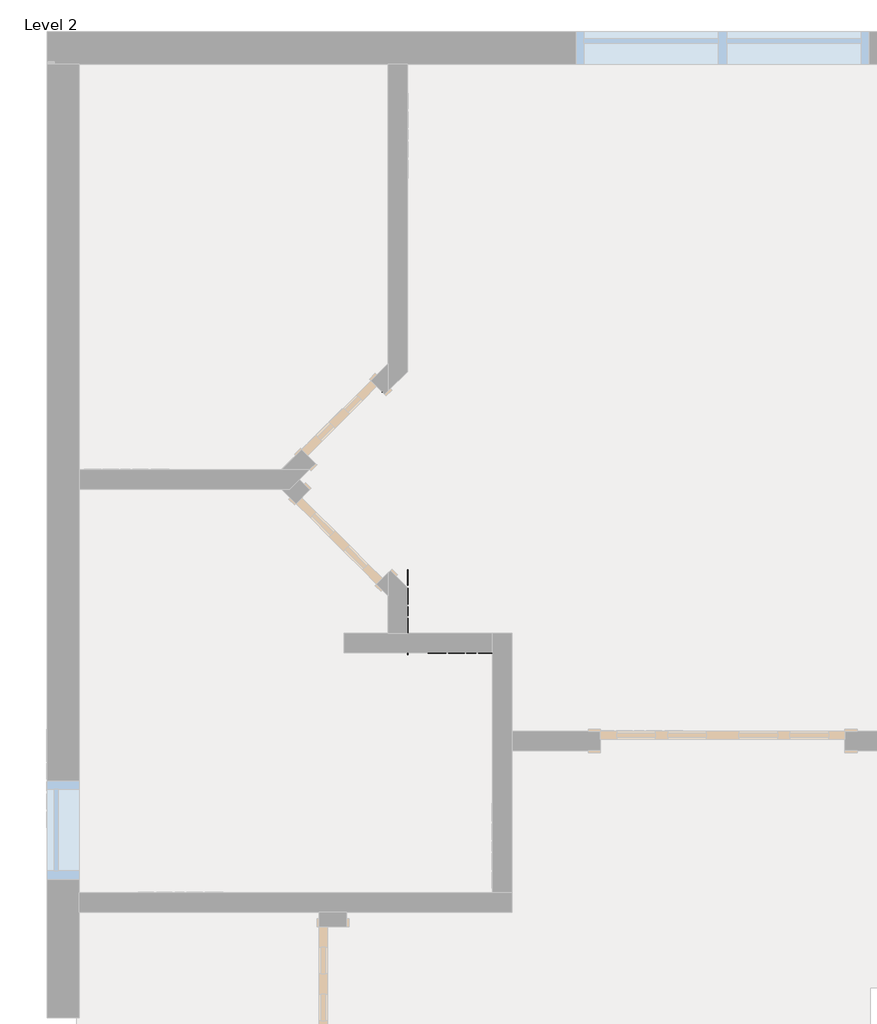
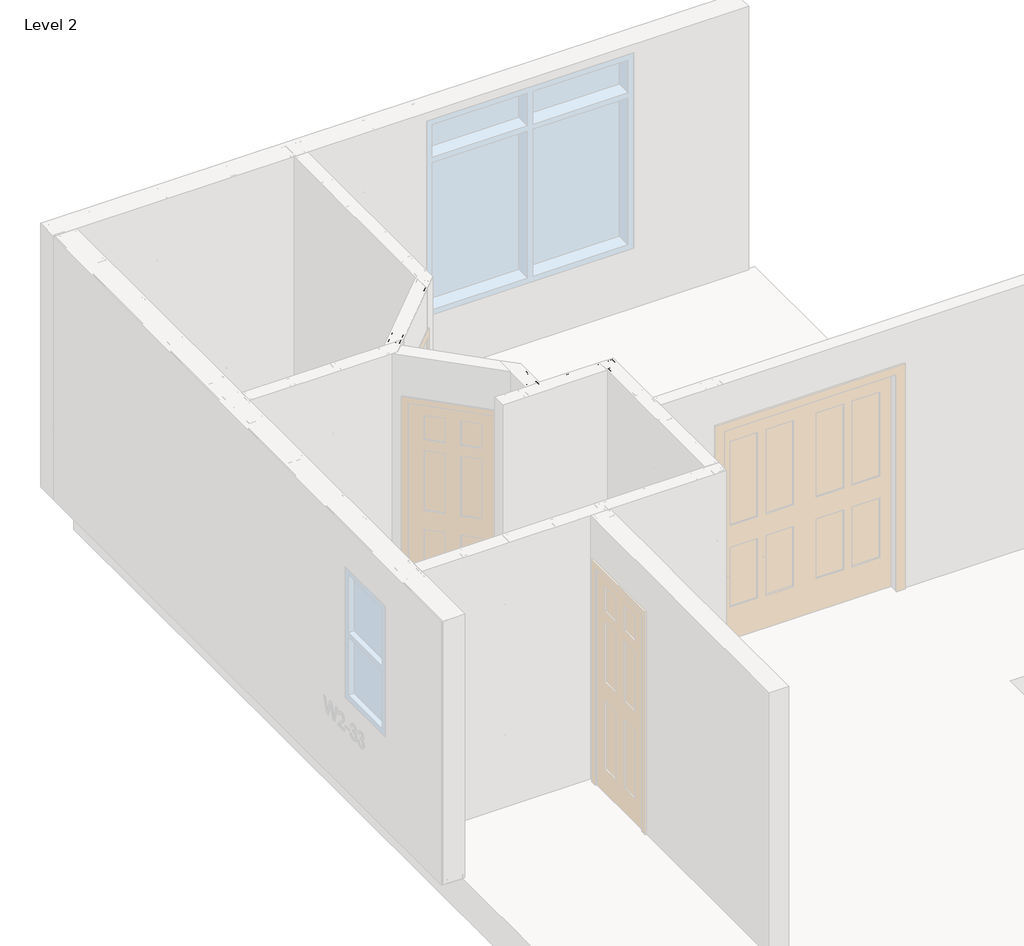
# One storey, part 29 of 46: 9 columns, 3 beams, 2 fasteners.
"""IFC4 building model written with IfcOpenShell, lengths in millimetres."""

from ifc_helpers import new_model, si_unit, point, frame, origin, place, context, project, spatial, circle_curve, ellipse_curve, trimmed, transform, mapped, element, save
from ifc_brep_helpers import plane_surface, extruded_surface, advanced_brep
from components import beam_350nf150_33_87fa722b, beam_350nf150_33_feebbda8, beam_350nf150_33_756c904e, column_350nf150_33_a93e9d8a, panellabel_6a70a0fa, panellabel_f1703738

model = new_model("IFC4")

# Units and contexts
model_context = context("Model", 3, world=origin())
ifc_project = project(units=[si_unit("LENGTHUNIT", "METRE", prefix="MILLI")], contexts=[model_context])

# Site, building, storey
site = spatial("IfcSite", under=ifc_project)
building = spatial("IfcBuilding", under=site)
storey = spatial("IfcBuildingStorey", under=building, Name="Level 2", Elevation=3060.7)

# Beams
placement = place(None, origin())
beam_350nf150_33_shape = beam_350nf150_33_87fa722b(model_context)
element("IfcBeam", 1, ObjectType="BIMSF-SSMA-S : 350NF150-33", at=placement, inside=storey, context=model_context, shape_type="MappedRepresentation", body=[
    mapped(beam_350nf150_33_shape, transform((-12921.6955722, 10242.677221, 3076.575), x_axis=(-1.0000000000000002, 0.0, 0.0), y_axis=(0.0, 0.0, -1.0000000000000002), z_axis=(0.0, -1.0000000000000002, 0.0))),
])
beam_350nf150_33_2_shape = beam_350nf150_33_feebbda8(model_context)
element("IfcBeam", 2, ObjectType="BIMSF-SSMA-S : 350NF150-33", at=placement, inside=storey, context=model_context, shape_type="MappedRepresentation", body=[
    mapped(beam_350nf150_33_2_shape, transform((-13720.4464533, 11363.1607353, 3076.575), x_axis=(0.7071067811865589, 0.7071067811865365, 0.0), y_axis=(0.0, 0.0, -1.0000000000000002), z_axis=(-0.7071067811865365, 0.7071067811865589, 0.0))),
])
beam_350nf150_33_3_shape = beam_350nf150_33_756c904e(model_context)
element("IfcBeam", 3, ObjectType="BIMSF-SSMA-S : 350NF150-33", at=placement, inside=storey, context=model_context, shape_type="MappedRepresentation", body=[
    mapped(beam_350nf150_33_3_shape, transform((-13201.7816696, 11881.825519, 3076.575), x_axis=(0.7071067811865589, 0.7071067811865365, 0.0), y_axis=(0.0, 0.0, -1.0000000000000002), z_axis=(-0.7071067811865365, 0.7071067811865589, 0.0))),
])

# Columns
element("IfcColumn", 4, ObjectType="BIMSF-SSMA-S-Column : 350NF150-33", at=placement, inside=storey, context=model_context, shape_type="AdvancedBrep", body=[
    advanced_brep(
    [(-12517.5663349, 10198.227221, 3061.5929687), (-12428.6663349, 10198.227221, 3061.5929687), (-12428.6663349, 10160.127221, 3061.5929687), (-12434.3238507, 10160.127221, 3061.5929687), (-12434.3238507, 10161.0095367, 3061.5929687), (-12429.5486507, 10161.0095367, 3061.5929687), (-12429.5486507, 10197.3449052, 3061.5929687), (-12516.6840191, 10197.3449052, 3061.5929687), (-12516.6840191, 10161.0095367, 3061.5929687), (-12511.9088191, 10161.0095367, 3061.5929687), (-12511.9088191, 10160.127221, 3061.5929687), (-12517.5663349, 10160.127221, 3061.5929687), (-12517.5663349, 10198.227221, 5523.6070313), (-12428.6663349, 10198.227221, 5523.6070313), (-12460.4163349, 10198.227221, 3671.1929688), (-12485.8163349, 10198.227221, 3671.1929688), (-12460.4163349, 10198.227221, 4890.3929687), (-12485.8163349, 10198.227221, 4890.3929687), (-12428.6663349, 10160.127221, 5523.6070313), (-12434.3238507, 10160.127221, 5523.6070313), (-12434.3238507, 10161.0095367, 5523.6070313), (-12429.5486507, 10161.0095367, 5523.6070313), (-12429.5486507, 10197.3449052, 5523.6070313), (-12516.6840191, 10197.3449052, 5523.6070313), (-12485.8163349, 10197.3449052, 3671.1929688), (-12460.4163349, 10197.3449052, 3671.1929688), (-12485.8163349, 10197.3449052, 4890.3929687), (-12460.4163349, 10197.3449052, 4890.3929687), (-12516.6840191, 10161.0095367, 5523.6070313), (-12511.9088191, 10161.0095367, 5523.6070313), (-12511.9088191, 10160.127221, 5523.6070313), (-12517.5663349, 10160.127221, 5523.6070313)],
    [
        (0, 1),
        (1, 2),
        (2, 3),
        (3, 4),
        (4, 5),
        (5, 6),
        (6, 7),
        (7, 8),
        (8, 9),
        (9, 10),
        (10, 11),
        (11, 0),
        (0, 12),
        (12, 13),
        (13, 1),
        (14, 15, circle_curve(frame((-12473.1163349, 10198.227221, 3671.1929688), z_axis=(0.0, -1.0, 0.0), x_axis=(1.0, 0.0, 0.0)), 12.7)),
        (15, 14, circle_curve(frame((-12473.1163349, 10198.227221, 3671.1929688), z_axis=(0.0, -1.0, 0.0), x_axis=(1.0, 0.0, 0.0)), 12.7)),
        (16, 17, circle_curve(frame((-12473.1163349, 10198.227221, 4890.3929687), z_axis=(0.0, -1.0, 0.0), x_axis=(1.0, 0.0, 0.0)), 12.7)),
        (17, 16, circle_curve(frame((-12473.1163349, 10198.227221, 4890.3929687), z_axis=(0.0, -1.0, 0.0), x_axis=(1.0, 0.0, 0.0)), 12.7)),
        (13, 18),
        (18, 2),
        (18, 19),
        (19, 3),
        (19, 20),
        (20, 4),
        (20, 21),
        (21, 5),
        (21, 22),
        (22, 6),
        (22, 23),
        (23, 7),
        (24, 25, circle_curve(frame((-12473.1163349, 10197.3449052, 3671.1929688), z_axis=(0.0, 1.0, 0.0), x_axis=(1.0, 0.0, 0.0)), 12.7)),
        (25, 24, circle_curve(frame((-12473.1163349, 10197.3449052, 3671.1929688), z_axis=(0.0, 1.0, 0.0), x_axis=(1.0, 0.0, 0.0)), 12.7)),
        (26, 27, circle_curve(frame((-12473.1163349, 10197.3449052, 4890.3929687), z_axis=(0.0, 1.0, 0.0), x_axis=(1.0, 0.0, 0.0)), 12.7)),
        (27, 26, circle_curve(frame((-12473.1163349, 10197.3449052, 4890.3929687), z_axis=(0.0, 1.0, 0.0), x_axis=(1.0, 0.0, 0.0)), 12.7)),
        (23, 28),
        (28, 8),
        (28, 29),
        (29, 9),
        (29, 30),
        (30, 10),
        (30, 31),
        (31, 11),
        (31, 12),
        (24, 15),
        (14, 25),
        (26, 17),
        (16, 27),
    ],
    [
        plane_surface(frame((-12517.5663349, 10198.227221, 3061.5929687), z_axis=(0.0, 0.0, -1.0), x_axis=(0.0, 1.0, 0.0))),
        plane_surface(frame((-12428.6663349, 10198.227221, 5523.6070313), z_axis=(0.0, 1.0, 0.0), x_axis=(0.0, 0.0, -1.0))),
        plane_surface(frame((-12428.6663349, 10160.127221, 5523.6070313), z_axis=(1.0, 0.0, 0.0), x_axis=(0.0, 0.0, -1.0))),
        plane_surface(frame((-12434.3238507, 10160.127221, 5523.6070313), z_axis=(0.0, -1.0, 0.0), x_axis=(0.0, 0.0, -1.0))),
        plane_surface(frame((-12434.3238507, 10161.0095367, 5523.6070313), z_axis=(-1.0, 0.0, 0.0), x_axis=(0.0, 0.0, -1.0))),
        plane_surface(frame((-12429.5486507, 10161.0095367, 5523.6070313), z_axis=(0.0, 1.0, 0.0), x_axis=(0.0, 0.0, -1.0))),
        plane_surface(frame((-12429.5486507, 10197.3449052, 5523.6070313), z_axis=(-1.0, 0.0, 0.0), x_axis=(0.0, 0.0, -1.0))),
        plane_surface(frame((-12516.6840191, 10197.3449052, 5523.6070313), z_axis=(0.0, -1.0, 0.0), x_axis=(0.0, 0.0, -1.0))),
        plane_surface(frame((-12516.6840191, 10161.0095367, 5523.6070313), z_axis=(1.0, 0.0, 0.0), x_axis=(0.0, 0.0, -1.0))),
        plane_surface(frame((-12511.9088191, 10161.0095367, 5523.6070313), z_axis=(0.0, 1.0, 0.0), x_axis=(0.0, 0.0, -1.0))),
        plane_surface(frame((-12511.9088191, 10160.127221, 5523.6070313), z_axis=(1.0, 0.0, 0.0), x_axis=(0.0, 0.0, -1.0))),
        plane_surface(frame((-12517.5663349, 10160.127221, 5523.6070313), z_axis=(0.0, -1.0, 0.0), x_axis=(0.0, 0.0, -1.0))),
        plane_surface(frame((-12517.5663349, 10198.227221, 5523.6070313), z_axis=(-1.0, 0.0, 0.0), x_axis=(0.0, 0.0, -1.0))),
        plane_surface(frame((-12517.5663349, 10198.227221, 5523.6070313), z_axis=(0.0, 0.0, 1.0), x_axis=(0.0, -1.0, 0.0))),
        extruded_surface(trimmed(ellipse_curve(frame((-12473.1163349, 7717.1631585, 3671.1929688), z_axis=(0.0, 1.0, 0.0), x_axis=(1.0, 0.0, 0.0)), 12.7, 12.7), [point((-12485.8163349, 7717.1631585, 3671.1929688))], [point((-12460.4163349, 7717.1631585, 3671.1929688))], True, "CARTESIAN"), (0.0, -4924.028124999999, 0.0), 4924.028124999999),
        extruded_surface(trimmed(ellipse_curve(frame((-12473.1163349, 7717.1631585, 3671.1929688), z_axis=(0.0, 1.0, 0.0), x_axis=(1.0, 0.0, 0.0)), 12.7, 12.7), [point((-12460.4163349, 7717.1631585, 3671.1929688))], [point((-12485.8163349, 7717.1631585, 3671.1929688))], True, "CARTESIAN"), (0.0, -4924.028124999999, 0.0), 4924.028124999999),
        extruded_surface(trimmed(ellipse_curve(frame((-12473.1163349, 7717.1631585, 4890.3929687), z_axis=(0.0, 1.0, 0.0), x_axis=(1.0, 0.0, 0.0)), 12.7, 12.7), [point((-12485.8163349, 7717.1631585, 4890.3929687))], [point((-12460.4163349, 7717.1631585, 4890.3929687))], True, "CARTESIAN"), (0.0, -4924.028124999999, 0.0), 4924.028124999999),
        extruded_surface(trimmed(ellipse_curve(frame((-12473.1163349, 7717.1631585, 4890.3929687), z_axis=(0.0, 1.0, 0.0), x_axis=(1.0, 0.0, 0.0)), 12.7, 12.7), [point((-12460.4163349, 7717.1631585, 4890.3929687))], [point((-12485.8163349, 7717.1631585, 4890.3929687))], True, "CARTESIAN"), (0.0, -4924.028124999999, 0.0), 4924.028124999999),
    ],
    [
        (0, [[1, 2, 3, 4, 5, 6, 7, 8, 9, 10, 11, 12]]),
        (1, [[-1, 13, 14, 15], [16, 17], [18, 19]]),
        (2, [[-2, -15, 20, 21]]),
        (3, [[-3, -21, 22, 23]]),
        (4, [[-4, -23, 24, 25]]),
        (5, [[-5, -25, 26, 27]]),
        (6, [[-6, -27, 28, 29]]),
        (7, [[-7, -29, 30, 31], [32, 33], [34, 35]]),
        (8, [[-8, -31, 36, 37]]),
        (9, [[-9, -37, 38, 39]]),
        (10, [[-10, -39, 40, 41]]),
        (11, [[-11, -41, 42, 43]]),
        (12, [[-12, -43, 44, -13]]),
        (13, [[-14, -44, -42, -40, -38, -36, -30, -28, -26, -24, -22, -20]]),
        (14, [[45, -16, 46, -32]]),
        (15, [[-45, -33, -46, -17]]),
        (16, [[47, -18, 48, -34]]),
        (17, [[-47, -35, -48, -19]]),
    ],
),
])
element("IfcColumn", 5, ObjectType="BIMSF-SSMA-S-Column : 350NF150-33", at=placement, inside=storey, context=model_context, shape_type="AdvancedBrep", body=[
    advanced_brep(
    [(-12428.6663349, 10287.127221, 3061.5929687), (-12428.6663349, 10198.227221, 3061.5929687), (-12466.7663349, 10198.227221, 3061.5929687), (-12466.7663349, 10203.8847367, 3061.5929687), (-12465.8840191, 10203.8847367, 3061.5929687), (-12465.8840191, 10199.1095367, 3061.5929687), (-12429.5486507, 10199.1095367, 3061.5929687), (-12429.5486507, 10286.2449052, 3061.5929687), (-12465.8840191, 10286.2449052, 3061.5929687), (-12465.8840191, 10281.4697052, 3061.5929687), (-12466.7663349, 10281.4697052, 3061.5929687), (-12466.7663349, 10287.127221, 3061.5929687), (-12428.6663349, 10287.127221, 5523.6070313), (-12428.6663349, 10198.227221, 5523.6070313), (-12428.6663349, 10229.977221, 3671.1929687), (-12428.6663349, 10255.377221, 3671.1929687), (-12428.6663349, 10229.977221, 4890.3929687), (-12428.6663349, 10255.377221, 4890.3929688), (-12466.7663349, 10198.227221, 5523.6070313), (-12466.7663349, 10203.8847367, 5523.6070313), (-12465.8840191, 10203.8847367, 5523.6070313), (-12465.8840191, 10199.1095367, 5523.6070313), (-12429.5486507, 10199.1095367, 5523.6070313), (-12429.5486507, 10286.2449052, 5523.6070313), (-12429.5486507, 10255.377221, 3671.1929687), (-12429.5486507, 10229.977221, 3671.1929687), (-12429.5486507, 10255.377221, 4890.3929688), (-12429.5486507, 10229.977221, 4890.3929687), (-12465.8840191, 10286.2449052, 5523.6070313), (-12465.8840191, 10281.4697052, 5523.6070313), (-12466.7663349, 10281.4697052, 5523.6070313), (-12466.7663349, 10287.127221, 5523.6070313)],
    [
        (0, 1),
        (1, 2),
        (2, 3),
        (3, 4),
        (4, 5),
        (5, 6),
        (6, 7),
        (7, 8),
        (8, 9),
        (9, 10),
        (10, 11),
        (11, 0),
        (0, 12),
        (12, 13),
        (13, 1),
        (14, 15, circle_curve(frame((-12428.6663349, 10242.677221, 3671.1929687), z_axis=(-1.0, 0.0, 0.0), x_axis=(0.0, -1.0, 0.0)), 12.7)),
        (15, 14, circle_curve(frame((-12428.6663349, 10242.677221, 3671.1929687), z_axis=(-1.0, 0.0, 0.0), x_axis=(0.0, -1.0, 0.0)), 12.7)),
        (16, 17, circle_curve(frame((-12428.6663349, 10242.677221, 4890.3929687), z_axis=(-1.0, 0.0, 0.0), x_axis=(0.0, -1.0, 0.0)), 12.7)),
        (17, 16, circle_curve(frame((-12428.6663349, 10242.677221, 4890.3929687), z_axis=(-1.0, 0.0, 0.0), x_axis=(0.0, -1.0, 0.0)), 12.7)),
        (13, 18),
        (18, 2),
        (18, 19),
        (19, 3),
        (19, 20),
        (20, 4),
        (20, 21),
        (21, 5),
        (21, 22),
        (22, 6),
        (22, 23),
        (23, 7),
        (24, 25, circle_curve(frame((-12429.5486507, 10242.677221, 3671.1929688), z_axis=(1.0, 0.0, 0.0), x_axis=(0.0, -1.0, 0.0)), 12.7)),
        (25, 24, circle_curve(frame((-12429.5486507, 10242.677221, 3671.1929688), z_axis=(1.0, 0.0, 0.0), x_axis=(0.0, -1.0, 0.0)), 12.7)),
        (26, 27, circle_curve(frame((-12429.5486507, 10242.677221, 4890.3929687), z_axis=(1.0, 0.0, 0.0), x_axis=(0.0, -1.0, 0.0)), 12.7)),
        (27, 26, circle_curve(frame((-12429.5486507, 10242.677221, 4890.3929687), z_axis=(1.0, 0.0, 0.0), x_axis=(0.0, -1.0, 0.0)), 12.7)),
        (23, 28),
        (28, 8),
        (28, 29),
        (29, 9),
        (29, 30),
        (30, 10),
        (30, 31),
        (31, 11),
        (31, 12),
        (24, 15),
        (14, 25),
        (26, 17),
        (16, 27),
    ],
    [
        plane_surface(frame((-12428.6663349, 10287.127221, 3061.5929687), z_axis=(0.0, 0.0, -1.0), x_axis=(1.0, 0.0, 0.0))),
        plane_surface(frame((-12428.6663349, 10198.227221, 5523.6070313), z_axis=(1.0, 0.0, 0.0), x_axis=(0.0, 0.0, -1.0))),
        plane_surface(frame((-12466.7663349, 10198.227221, 5523.6070313), z_axis=(0.0, -1.0, 0.0), x_axis=(0.0, 0.0, -1.0))),
        plane_surface(frame((-12466.7663349, 10203.8847367, 5523.6070313), z_axis=(-1.0, 0.0, 0.0), x_axis=(0.0, 0.0, -1.0))),
        plane_surface(frame((-12465.8840191, 10203.8847367, 5523.6070313), z_axis=(0.0, 1.0, 0.0), x_axis=(0.0, 0.0, -1.0))),
        plane_surface(frame((-12465.8840191, 10199.1095367, 5523.6070313), z_axis=(1.0, 0.0, 0.0), x_axis=(0.0, 0.0, -1.0))),
        plane_surface(frame((-12429.5486507, 10199.1095367, 5523.6070313), z_axis=(0.0, 1.0, 0.0), x_axis=(0.0, 0.0, -1.0))),
        plane_surface(frame((-12429.5486507, 10286.2449052, 5523.6070313), z_axis=(-1.0, 0.0, 0.0), x_axis=(0.0, 0.0, -1.0))),
        plane_surface(frame((-12465.8840191, 10286.2449052, 5523.6070313), z_axis=(0.0, -1.0, 0.0), x_axis=(0.0, 0.0, -1.0))),
        plane_surface(frame((-12465.8840191, 10281.4697052, 5523.6070313), z_axis=(1.0, 0.0, 0.0), x_axis=(0.0, 0.0, -1.0))),
        plane_surface(frame((-12466.7663349, 10281.4697052, 5523.6070313), z_axis=(0.0, -1.0, 0.0), x_axis=(0.0, 0.0, -1.0))),
        plane_surface(frame((-12466.7663349, 10287.127221, 5523.6070313), z_axis=(-1.0, 0.0, 0.0), x_axis=(0.0, 0.0, -1.0))),
        plane_surface(frame((-12428.6663349, 10287.127221, 5523.6070313), z_axis=(0.0, 1.0, 0.0), x_axis=(0.0, 0.0, -1.0))),
        plane_surface(frame((-12428.6663349, 10287.127221, 5523.6070313), z_axis=(0.0, 0.0, 1.0), x_axis=(-1.0, 0.0, 0.0))),
        extruded_surface(trimmed(ellipse_curve(frame((-14909.7303974, 10242.677221, 3671.1929688), z_axis=(1.0, 0.0, 0.0), x_axis=(0.0, -1.0, 0.0)), 12.7, 12.7), [point((-14909.7303974, 10255.377221, 3671.1929688))], [point((-14909.7303974, 10229.977221, 3671.1929688))], True, "CARTESIAN"), (-4924.028124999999, 0.0, 0.0), 4924.028124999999),
        extruded_surface(trimmed(ellipse_curve(frame((-14909.7303974, 10242.677221, 3671.1929688), z_axis=(1.0, 0.0, 0.0), x_axis=(0.0, -1.0, 0.0)), 12.7, 12.7), [point((-14909.7303974, 10229.977221, 3671.1929688))], [point((-14909.7303974, 10255.377221, 3671.1929688))], True, "CARTESIAN"), (-4924.028124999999, 0.0, 0.0), 4924.028124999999),
        extruded_surface(trimmed(ellipse_curve(frame((-14909.7303974, 10242.677221, 4890.3929687), z_axis=(1.0, 0.0, 0.0), x_axis=(0.0, -1.0, 0.0)), 12.7, 12.7), [point((-14909.7303974, 10255.377221, 4890.3929687))], [point((-14909.7303974, 10229.977221, 4890.3929687))], True, "CARTESIAN"), (-4924.028124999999, 0.0, 0.0), 4924.028124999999),
        extruded_surface(trimmed(ellipse_curve(frame((-14909.7303974, 10242.677221, 4890.3929687), z_axis=(1.0, 0.0, 0.0), x_axis=(0.0, -1.0, 0.0)), 12.7, 12.7), [point((-14909.7303974, 10229.977221, 4890.3929687))], [point((-14909.7303974, 10255.377221, 4890.3929687))], True, "CARTESIAN"), (-4924.028124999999, 0.0, 0.0), 4924.028124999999),
    ],
    [
        (0, [[1, 2, 3, 4, 5, 6, 7, 8, 9, 10, 11, 12]]),
        (1, [[-1, 13, 14, 15], [16, 17], [18, 19]]),
        (2, [[-2, -15, 20, 21]]),
        (3, [[-3, -21, 22, 23]]),
        (4, [[-4, -23, 24, 25]]),
        (5, [[-5, -25, 26, 27]]),
        (6, [[-6, -27, 28, 29]]),
        (7, [[-7, -29, 30, 31], [32, 33], [34, 35]]),
        (8, [[-8, -31, 36, 37]]),
        (9, [[-9, -37, 38, 39]]),
        (10, [[-10, -39, 40, 41]]),
        (11, [[-11, -41, 42, 43]]),
        (12, [[-12, -43, 44, -13]]),
        (13, [[-14, -44, -42, -40, -38, -36, -30, -28, -26, -24, -22, -20]]),
        (14, [[45, -16, 46, -32]]),
        (15, [[-45, -33, -46, -17]]),
        (16, [[47, -18, 48, -34]]),
        (17, [[-47, -35, -48, -19]]),
    ],
),
])
element("IfcColumn", 6, ObjectType="BIMSF-SSMA-S-Column : 350NF150-33", at=placement, inside=storey, context=model_context, shape_type="AdvancedBrep", body=[
    advanced_brep(
    [(-12816.0163349, 10287.127221, 3061.5929687), (-12816.0163349, 10198.227221, 3061.5929687), (-12854.1163349, 10198.227221, 3061.5929687), (-12854.1163349, 10203.8847367, 3061.5929687), (-12853.2340191, 10203.8847367, 3061.5929687), (-12853.2340191, 10199.1095367, 3061.5929687), (-12816.8986507, 10199.1095367, 3061.5929687), (-12816.8986507, 10286.2449052, 3061.5929687), (-12853.2340191, 10286.2449052, 3061.5929687), (-12853.2340191, 10281.4697052, 3061.5929687), (-12854.1163349, 10281.4697052, 3061.5929687), (-12854.1163349, 10287.127221, 3061.5929687), (-12816.0163349, 10287.127221, 5523.6070313), (-12816.0163349, 10198.227221, 5523.6070313), (-12816.0163349, 10229.977221, 3671.1929688), (-12816.0163349, 10255.377221, 3671.1929688), (-12816.0163349, 10229.977221, 4890.3929687), (-12816.0163349, 10255.377221, 4890.3929687), (-12854.1163349, 10198.227221, 5523.6070313), (-12854.1163349, 10203.8847367, 5523.6070313), (-12853.2340191, 10203.8847367, 5523.6070313), (-12853.2340191, 10199.1095367, 5523.6070313), (-12816.8986507, 10199.1095367, 5523.6070313), (-12816.8986507, 10286.2449052, 5523.6070313), (-12816.8986507, 10255.377221, 3671.1929688), (-12816.8986507, 10229.977221, 3671.1929688), (-12816.8986507, 10255.377221, 4890.3929688), (-12816.8986507, 10229.977221, 4890.3929688), (-12853.2340191, 10286.2449052, 5523.6070313), (-12853.2340191, 10281.4697052, 5523.6070313), (-12854.1163349, 10281.4697052, 5523.6070313), (-12854.1163349, 10287.127221, 5523.6070313)],
    [
        (0, 1),
        (1, 2),
        (2, 3),
        (3, 4),
        (4, 5),
        (5, 6),
        (6, 7),
        (7, 8),
        (8, 9),
        (9, 10),
        (10, 11),
        (11, 0),
        (0, 12),
        (12, 13),
        (13, 1),
        (14, 15, circle_curve(frame((-12816.0163349, 10242.677221, 3671.1929687), z_axis=(-1.0, 0.0, 0.0), x_axis=(0.0, -1.0, 0.0)), 12.7)),
        (15, 14, circle_curve(frame((-12816.0163349, 10242.677221, 3671.1929687), z_axis=(-1.0, 0.0, 0.0), x_axis=(0.0, -1.0, 0.0)), 12.7)),
        (16, 17, circle_curve(frame((-12816.0163349, 10242.677221, 4890.3929687), z_axis=(-1.0, 0.0, 0.0), x_axis=(0.0, -1.0, 0.0)), 12.7)),
        (17, 16, circle_curve(frame((-12816.0163349, 10242.677221, 4890.3929687), z_axis=(-1.0, 0.0, 0.0), x_axis=(0.0, -1.0, 0.0)), 12.7)),
        (13, 18),
        (18, 2),
        (18, 19),
        (19, 3),
        (19, 20),
        (20, 4),
        (20, 21),
        (21, 5),
        (21, 22),
        (22, 6),
        (22, 23),
        (23, 7),
        (24, 25, circle_curve(frame((-12816.8986507, 10242.677221, 3671.1929688), z_axis=(1.0, 0.0, 0.0), x_axis=(0.0, -1.0, 0.0)), 12.7)),
        (25, 24, circle_curve(frame((-12816.8986507, 10242.677221, 3671.1929688), z_axis=(1.0, 0.0, 0.0), x_axis=(0.0, -1.0, 0.0)), 12.7)),
        (26, 27, circle_curve(frame((-12816.8986507, 10242.677221, 4890.3929687), z_axis=(1.0, 0.0, 0.0), x_axis=(0.0, -1.0, 0.0)), 12.7)),
        (27, 26, circle_curve(frame((-12816.8986507, 10242.677221, 4890.3929687), z_axis=(1.0, 0.0, 0.0), x_axis=(0.0, -1.0, 0.0)), 12.7)),
        (23, 28),
        (28, 8),
        (28, 29),
        (29, 9),
        (29, 30),
        (30, 10),
        (30, 31),
        (31, 11),
        (31, 12),
        (24, 15),
        (14, 25),
        (26, 17),
        (16, 27),
    ],
    [
        plane_surface(frame((-12816.0163349, 10287.127221, 3061.5929687), z_axis=(0.0, 0.0, -1.0), x_axis=(1.0, 0.0, 0.0))),
        plane_surface(frame((-12816.0163349, 10198.227221, 5523.6070313), z_axis=(1.0, 0.0, 0.0), x_axis=(0.0, 0.0, -1.0))),
        plane_surface(frame((-12854.1163349, 10198.227221, 5523.6070313), z_axis=(0.0, -1.0, 0.0), x_axis=(0.0, 0.0, -1.0))),
        plane_surface(frame((-12854.1163349, 10203.8847367, 5523.6070313), z_axis=(-1.0, 0.0, 0.0), x_axis=(0.0, 0.0, -1.0))),
        plane_surface(frame((-12853.2340191, 10203.8847367, 5523.6070313), z_axis=(0.0, 1.0, 0.0), x_axis=(0.0, 0.0, -1.0))),
        plane_surface(frame((-12853.2340191, 10199.1095367, 5523.6070313), z_axis=(1.0, 0.0, 0.0), x_axis=(0.0, 0.0, -1.0))),
        plane_surface(frame((-12816.8986507, 10199.1095367, 5523.6070313), z_axis=(0.0, 1.0, 0.0), x_axis=(0.0, 0.0, -1.0))),
        plane_surface(frame((-12816.8986507, 10286.2449052, 5523.6070313), z_axis=(-1.0, 0.0, 0.0), x_axis=(0.0, 0.0, -1.0))),
        plane_surface(frame((-12853.2340191, 10286.2449052, 5523.6070313), z_axis=(0.0, -1.0, 0.0), x_axis=(0.0, 0.0, -1.0))),
        plane_surface(frame((-12853.2340191, 10281.4697052, 5523.6070313), z_axis=(1.0, 0.0, 0.0), x_axis=(0.0, 0.0, -1.0))),
        plane_surface(frame((-12854.1163349, 10281.4697052, 5523.6070313), z_axis=(0.0, -1.0, 0.0), x_axis=(0.0, 0.0, -1.0))),
        plane_surface(frame((-12854.1163349, 10287.127221, 5523.6070313), z_axis=(-1.0, 0.0, 0.0), x_axis=(0.0, 0.0, -1.0))),
        plane_surface(frame((-12816.0163349, 10287.127221, 5523.6070313), z_axis=(0.0, 1.0, 0.0), x_axis=(0.0, 0.0, -1.0))),
        plane_surface(frame((-12816.0163349, 10287.127221, 5523.6070313), z_axis=(0.0, 0.0, 1.0), x_axis=(-1.0, 0.0, 0.0))),
        extruded_surface(trimmed(ellipse_curve(frame((-15297.0803974, 10242.677221, 3671.1929688), z_axis=(1.0, 0.0, 0.0), x_axis=(0.0, -1.0, 0.0)), 12.7, 12.7), [point((-15297.0803974, 10255.377221, 3671.1929688))], [point((-15297.0803974, 10229.977221, 3671.1929688))], True, "CARTESIAN"), (-4924.028125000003, 0.0, 0.0), 4924.028125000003),
        extruded_surface(trimmed(ellipse_curve(frame((-15297.0803974, 10242.677221, 3671.1929688), z_axis=(1.0, 0.0, 0.0), x_axis=(0.0, -1.0, 0.0)), 12.7, 12.7), [point((-15297.0803974, 10229.977221, 3671.1929688))], [point((-15297.0803974, 10255.377221, 3671.1929688))], True, "CARTESIAN"), (-4924.028125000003, 0.0, 0.0), 4924.028125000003),
        extruded_surface(trimmed(ellipse_curve(frame((-15297.0803974, 10242.677221, 4890.3929687), z_axis=(1.0, 0.0, 0.0), x_axis=(0.0, -1.0, 0.0)), 12.7, 12.7), [point((-15297.0803974, 10255.377221, 4890.3929687))], [point((-15297.0803974, 10229.977221, 4890.3929687))], True, "CARTESIAN"), (-4924.028125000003, 0.0, 0.0), 4924.028125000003),
        extruded_surface(trimmed(ellipse_curve(frame((-15297.0803974, 10242.677221, 4890.3929687), z_axis=(1.0, 0.0, 0.0), x_axis=(0.0, -1.0, 0.0)), 12.7, 12.7), [point((-15297.0803974, 10229.977221, 4890.3929687))], [point((-15297.0803974, 10255.377221, 4890.3929687))], True, "CARTESIAN"), (-4924.028125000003, 0.0, 0.0), 4924.028125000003),
    ],
    [
        (0, [[1, 2, 3, 4, 5, 6, 7, 8, 9, 10, 11, 12]]),
        (1, [[-1, 13, 14, 15], [16, 17], [18, 19]]),
        (2, [[-2, -15, 20, 21]]),
        (3, [[-3, -21, 22, 23]]),
        (4, [[-4, -23, 24, 25]]),
        (5, [[-5, -25, 26, 27]]),
        (6, [[-6, -27, 28, 29]]),
        (7, [[-7, -29, 30, 31], [32, 33], [34, 35]]),
        (8, [[-8, -31, 36, 37]]),
        (9, [[-9, -37, 38, 39]]),
        (10, [[-10, -39, 40, 41]]),
        (11, [[-11, -41, 42, 43]]),
        (12, [[-12, -43, 44, -13]]),
        (13, [[-14, -44, -42, -40, -38, -36, -30, -28, -26, -24, -22, -20]]),
        (14, [[45, -16, 46, -32]]),
        (15, [[-45, -33, -46, -17]]),
        (16, [[47, -18, 48, -34]]),
        (17, [[-47, -35, -48, -19]]),
    ],
),
])
element("IfcColumn", 7, ObjectType="BIMSF-SSMA-S-Column : 350NF150-33", at=placement, inside=storey, context=model_context, shape_type="AdvancedBrep", body=[
    advanced_brep(
    [(-13168.4413349, 10479.1573381, 3061.5929687), (-13079.5413349, 10479.1573381, 3061.5929687), (-13079.5413349, 10441.0573381, 3061.5929687), (-13085.1988507, 10441.0573381, 3061.5929687), (-13085.1988507, 10441.9396539, 3061.5929687), (-13080.4236507, 10441.9396539, 3061.5929687), (-13080.4236507, 10478.2750224, 3061.5929687), (-13167.5590191, 10478.2750224, 3061.5929687), (-13167.5590191, 10441.9396539, 3061.5929687), (-13162.7838191, 10441.9396539, 3061.5929687), (-13162.7838191, 10441.0573381, 3061.5929687), (-13168.4413349, 10441.0573381, 3061.5929687), (-13168.4413349, 10479.1573381, 5523.6070313), (-13079.5413349, 10479.1573381, 5523.6070313), (-13111.2913349, 10479.1573381, 3671.1929688), (-13136.6913349, 10479.1573381, 3671.1929688), (-13111.2913349, 10479.1573381, 4890.3929687), (-13136.6913349, 10479.1573381, 4890.3929687), (-13079.5413349, 10441.0573381, 5523.6070313), (-13085.1988507, 10441.0573381, 5523.6070313), (-13085.1988507, 10441.9396539, 5523.6070313), (-13080.4236507, 10441.9396539, 5523.6070313), (-13080.4236507, 10478.2750224, 5523.6070313), (-13167.5590191, 10478.2750224, 5523.6070313), (-13136.6913349, 10478.2750224, 3671.1929688), (-13111.2913349, 10478.2750224, 3671.1929688), (-13136.6913349, 10478.2750224, 4890.3929687), (-13111.2913349, 10478.2750224, 4890.3929687), (-13167.5590191, 10441.9396539, 5523.6070313), (-13162.7838191, 10441.9396539, 5523.6070313), (-13162.7838191, 10441.0573381, 5523.6070313), (-13168.4413349, 10441.0573381, 5523.6070313)],
    [
        (0, 1),
        (1, 2),
        (2, 3),
        (3, 4),
        (4, 5),
        (5, 6),
        (6, 7),
        (7, 8),
        (8, 9),
        (9, 10),
        (10, 11),
        (11, 0),
        (0, 12),
        (12, 13),
        (13, 1),
        (14, 15, circle_curve(frame((-13123.9913349, 10479.1573381, 3671.1929688), z_axis=(0.0, -1.0, 0.0), x_axis=(1.0, 0.0, 0.0)), 12.7)),
        (15, 14, circle_curve(frame((-13123.9913349, 10479.1573381, 3671.1929688), z_axis=(0.0, -1.0, 0.0), x_axis=(1.0, 0.0, 0.0)), 12.7)),
        (16, 17, circle_curve(frame((-13123.9913349, 10479.1573381, 4890.3929687), z_axis=(0.0, -1.0, 0.0), x_axis=(1.0, 0.0, 0.0)), 12.7)),
        (17, 16, circle_curve(frame((-13123.9913349, 10479.1573381, 4890.3929687), z_axis=(0.0, -1.0, 0.0), x_axis=(1.0, 0.0, 0.0)), 12.7)),
        (13, 18),
        (18, 2),
        (18, 19),
        (19, 3),
        (19, 20),
        (20, 4),
        (20, 21),
        (21, 5),
        (21, 22),
        (22, 6),
        (22, 23),
        (23, 7),
        (24, 25, circle_curve(frame((-13123.9913349, 10478.2750224, 3671.1929688), z_axis=(0.0, 1.0, 0.0), x_axis=(1.0, 0.0, 0.0)), 12.7)),
        (25, 24, circle_curve(frame((-13123.9913349, 10478.2750224, 3671.1929688), z_axis=(0.0, 1.0, 0.0), x_axis=(1.0, 0.0, 0.0)), 12.7)),
        (26, 27, circle_curve(frame((-13123.9913349, 10478.2750224, 4890.3929687), z_axis=(0.0, 1.0, 0.0), x_axis=(1.0, 0.0, 0.0)), 12.7)),
        (27, 26, circle_curve(frame((-13123.9913349, 10478.2750224, 4890.3929687), z_axis=(0.0, 1.0, 0.0), x_axis=(1.0, 0.0, 0.0)), 12.7)),
        (23, 28),
        (28, 8),
        (28, 29),
        (29, 9),
        (29, 30),
        (30, 10),
        (30, 31),
        (31, 11),
        (31, 12),
        (24, 15),
        (14, 25),
        (26, 17),
        (16, 27),
    ],
    [
        plane_surface(frame((-13168.4413349, 10479.1573381, 3061.5929687), z_axis=(0.0, 0.0, -1.0), x_axis=(0.0, 1.0, 0.0))),
        plane_surface(frame((-13079.5413349, 10479.1573381, 5523.6070313), z_axis=(0.0, 1.0, 0.0), x_axis=(0.0, 0.0, -1.0))),
        plane_surface(frame((-13079.5413349, 10441.0573381, 5523.6070313), z_axis=(1.0, 0.0, 0.0), x_axis=(0.0, 0.0, -1.0))),
        plane_surface(frame((-13085.1988507, 10441.0573381, 5523.6070313), z_axis=(0.0, -1.0, 0.0), x_axis=(0.0, 0.0, -1.0))),
        plane_surface(frame((-13085.1988507, 10441.9396539, 5523.6070313), z_axis=(-1.0, 0.0, 0.0), x_axis=(0.0, 0.0, -1.0))),
        plane_surface(frame((-13080.4236507, 10441.9396539, 5523.6070313), z_axis=(0.0, 1.0, 0.0), x_axis=(0.0, 0.0, -1.0))),
        plane_surface(frame((-13080.4236507, 10478.2750224, 5523.6070313), z_axis=(-1.0, 0.0, 0.0), x_axis=(0.0, 0.0, -1.0))),
        plane_surface(frame((-13167.5590191, 10478.2750224, 5523.6070313), z_axis=(0.0, -1.0, 0.0), x_axis=(0.0, 0.0, -1.0))),
        plane_surface(frame((-13167.5590191, 10441.9396539, 5523.6070313), z_axis=(1.0, 0.0, 0.0), x_axis=(0.0, 0.0, -1.0))),
        plane_surface(frame((-13162.7838191, 10441.9396539, 5523.6070313), z_axis=(0.0, 1.0, 0.0), x_axis=(0.0, 0.0, -1.0))),
        plane_surface(frame((-13162.7838191, 10441.0573381, 5523.6070313), z_axis=(1.0, 0.0, 0.0), x_axis=(0.0, 0.0, -1.0))),
        plane_surface(frame((-13168.4413349, 10441.0573381, 5523.6070313), z_axis=(0.0, -1.0, 0.0), x_axis=(0.0, 0.0, -1.0))),
        plane_surface(frame((-13168.4413349, 10479.1573381, 5523.6070313), z_axis=(-1.0, 0.0, 0.0), x_axis=(0.0, 0.0, -1.0))),
        plane_surface(frame((-13168.4413349, 10479.1573381, 5523.6070313), z_axis=(0.0, 0.0, 1.0), x_axis=(0.0, -1.0, 0.0))),
        extruded_surface(trimmed(ellipse_curve(frame((-13123.9913349, 7998.0932756, 3671.1929688), z_axis=(0.0, 1.0, 0.0), x_axis=(1.0, 0.0, 0.0)), 12.7, 12.7), [point((-13136.6913349, 7998.0932756, 3671.1929688))], [point((-13111.2913349, 7998.0932756, 3671.1929688))], True, "CARTESIAN"), (0.0, -4924.028125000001, 0.0), 4924.028125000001),
        extruded_surface(trimmed(ellipse_curve(frame((-13123.9913349, 7998.0932756, 3671.1929688), z_axis=(0.0, 1.0, 0.0), x_axis=(1.0, 0.0, 0.0)), 12.7, 12.7), [point((-13111.2913349, 7998.0932756, 3671.1929688))], [point((-13136.6913349, 7998.0932756, 3671.1929688))], True, "CARTESIAN"), (0.0, -4924.028125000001, 0.0), 4924.028125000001),
        extruded_surface(trimmed(ellipse_curve(frame((-13123.9913349, 7998.0932756, 4890.3929687), z_axis=(0.0, 1.0, 0.0), x_axis=(1.0, 0.0, 0.0)), 12.7, 12.7), [point((-13136.6913349, 7998.0932756, 4890.3929687))], [point((-13111.2913349, 7998.0932756, 4890.3929687))], True, "CARTESIAN"), (0.0, -4924.028125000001, 0.0), 4924.028125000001),
        extruded_surface(trimmed(ellipse_curve(frame((-13123.9913349, 7998.0932756, 4890.3929687), z_axis=(0.0, 1.0, 0.0), x_axis=(1.0, 0.0, 0.0)), 12.7, 12.7), [point((-13111.2913349, 7998.0932756, 4890.3929687))], [point((-13136.6913349, 7998.0932756, 4890.3929687))], True, "CARTESIAN"), (0.0, -4924.028125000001, 0.0), 4924.028125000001),
    ],
    [
        (0, [[1, 2, 3, 4, 5, 6, 7, 8, 9, 10, 11, 12]]),
        (1, [[-1, 13, 14, 15], [16, 17], [18, 19]]),
        (2, [[-2, -15, 20, 21]]),
        (3, [[-3, -21, 22, 23]]),
        (4, [[-4, -23, 24, 25]]),
        (5, [[-5, -25, 26, 27]]),
        (6, [[-6, -27, 28, 29]]),
        (7, [[-7, -29, 30, 31], [32, 33], [34, 35]]),
        (8, [[-8, -31, 36, 37]]),
        (9, [[-9, -37, 38, 39]]),
        (10, [[-10, -39, 40, 41]]),
        (11, [[-11, -41, 42, 43]]),
        (12, [[-12, -43, 44, -13]]),
        (13, [[-14, -44, -42, -40, -38, -36, -30, -28, -26, -24, -22, -20]]),
        (14, [[45, -16, 46, -32]]),
        (15, [[-45, -33, -46, -17]]),
        (16, [[47, -18, 48, -34]]),
        (17, [[-47, -35, -48, -19]]),
    ],
),
])
element("IfcColumn", 8, ObjectType="BIMSF-SSMA-S-Column : 350NF150-33", at=placement, inside=storey, context=model_context, shape_type="AdvancedBrep", body=[
    advanced_brep(
    [(-13079.5413349, 10287.127221, 3061.5929687), (-13168.4413349, 10287.127221, 3061.5929687), (-13168.4413349, 10325.227221, 3061.5929687), (-13162.7838191, 10325.227221, 3061.5929687), (-13162.7838191, 10324.3449052, 3061.5929687), (-13167.5590191, 10324.3449052, 3061.5929687), (-13167.5590191, 10288.0095367, 3061.5929687), (-13080.4236507, 10288.0095367, 3061.5929687), (-13080.4236507, 10324.3449052, 3061.5929687), (-13085.1988507, 10324.3449052, 3061.5929687), (-13085.1988507, 10325.227221, 3061.5929687), (-13079.5413349, 10325.227221, 3061.5929687), (-13079.5413349, 10287.127221, 5523.6070313), (-13168.4413349, 10287.127221, 5523.6070313), (-13136.6913349, 10287.127221, 3671.1929688), (-13111.2913349, 10287.127221, 3671.1929688), (-13136.6913349, 10287.127221, 4890.3929688), (-13111.2913349, 10287.127221, 4890.3929687), (-13168.4413349, 10325.227221, 5523.6070313), (-13162.7838191, 10325.227221, 5523.6070313), (-13162.7838191, 10324.3449052, 5523.6070313), (-13167.5590191, 10324.3449052, 5523.6070313), (-13167.5590191, 10288.0095367, 5523.6070313), (-13080.4236507, 10288.0095367, 5523.6070313), (-13111.2913349, 10288.0095367, 3671.1929688), (-13136.6913349, 10288.0095367, 3671.1929688), (-13111.2913349, 10288.0095367, 4890.3929688), (-13136.6913349, 10288.0095367, 4890.3929688), (-13080.4236507, 10324.3449052, 5523.6070313), (-13085.1988507, 10324.3449052, 5523.6070313), (-13085.1988507, 10325.227221, 5523.6070313), (-13079.5413349, 10325.227221, 5523.6070313)],
    [
        (0, 1),
        (1, 2),
        (2, 3),
        (3, 4),
        (4, 5),
        (5, 6),
        (6, 7),
        (7, 8),
        (8, 9),
        (9, 10),
        (10, 11),
        (11, 0),
        (0, 12),
        (12, 13),
        (13, 1),
        (14, 15, circle_curve(frame((-13123.9913349, 10287.127221, 3671.1929688), z_axis=(0.0, 1.0, 0.0), x_axis=(-1.0, 0.0, 0.0)), 12.7)),
        (15, 14, circle_curve(frame((-13123.9913349, 10287.127221, 3671.1929688), z_axis=(0.0, 1.0, 0.0), x_axis=(-1.0, 0.0, 0.0)), 12.7)),
        (16, 17, circle_curve(frame((-13123.9913349, 10287.127221, 4890.3929687), z_axis=(0.0, 1.0, 0.0), x_axis=(-1.0, 0.0, 0.0)), 12.7)),
        (17, 16, circle_curve(frame((-13123.9913349, 10287.127221, 4890.3929687), z_axis=(0.0, 1.0, 0.0), x_axis=(-1.0, 0.0, 0.0)), 12.7)),
        (13, 18),
        (18, 2),
        (18, 19),
        (19, 3),
        (19, 20),
        (20, 4),
        (20, 21),
        (21, 5),
        (21, 22),
        (22, 6),
        (22, 23),
        (23, 7),
        (24, 25, circle_curve(frame((-13123.9913349, 10288.0095367, 3671.1929687), z_axis=(0.0, -1.0, 0.0), x_axis=(-1.0, 0.0, 0.0)), 12.7)),
        (25, 24, circle_curve(frame((-13123.9913349, 10288.0095367, 3671.1929687), z_axis=(0.0, -1.0, 0.0), x_axis=(-1.0, 0.0, 0.0)), 12.7)),
        (26, 27, circle_curve(frame((-13123.9913349, 10288.0095367, 4890.3929687), z_axis=(0.0, -1.0, 0.0), x_axis=(-1.0, 0.0, 0.0)), 12.7)),
        (27, 26, circle_curve(frame((-13123.9913349, 10288.0095367, 4890.3929687), z_axis=(0.0, -1.0, 0.0), x_axis=(-1.0, 0.0, 0.0)), 12.7)),
        (23, 28),
        (28, 8),
        (28, 29),
        (29, 9),
        (29, 30),
        (30, 10),
        (30, 31),
        (31, 11),
        (31, 12),
        (24, 15),
        (14, 25),
        (26, 17),
        (16, 27),
    ],
    [
        plane_surface(frame((-13079.5413349, 10287.127221, 3061.5929687), z_axis=(0.0, 0.0, -1.0), x_axis=(0.0, -1.0, 0.0))),
        plane_surface(frame((-13168.4413349, 10287.127221, 5523.6070313), z_axis=(0.0, -1.0, 0.0), x_axis=(0.0, 0.0, -1.0))),
        plane_surface(frame((-13168.4413349, 10325.227221, 5523.6070313), z_axis=(-1.0, 0.0, 0.0), x_axis=(0.0, 0.0, -1.0))),
        plane_surface(frame((-13162.7838191, 10325.227221, 5523.6070313), z_axis=(0.0, 1.0, 0.0), x_axis=(0.0, 0.0, -1.0))),
        plane_surface(frame((-13162.7838191, 10324.3449052, 5523.6070313), z_axis=(1.0, 0.0, 0.0), x_axis=(0.0, 0.0, -1.0))),
        plane_surface(frame((-13167.5590191, 10324.3449052, 5523.6070313), z_axis=(0.0, -1.0, 0.0), x_axis=(0.0, 0.0, -1.0))),
        plane_surface(frame((-13167.5590191, 10288.0095367, 5523.6070313), z_axis=(1.0, 0.0, 0.0), x_axis=(0.0, 0.0, -1.0))),
        plane_surface(frame((-13080.4236507, 10288.0095367, 5523.6070313), z_axis=(0.0, 1.0, 0.0), x_axis=(0.0, 0.0, -1.0))),
        plane_surface(frame((-13080.4236507, 10324.3449052, 5523.6070313), z_axis=(-1.0, 0.0, 0.0), x_axis=(0.0, 0.0, -1.0))),
        plane_surface(frame((-13085.1988507, 10324.3449052, 5523.6070313), z_axis=(0.0, -1.0, 0.0), x_axis=(0.0, 0.0, -1.0))),
        plane_surface(frame((-13085.1988507, 10325.227221, 5523.6070313), z_axis=(-1.0, 0.0, 0.0), x_axis=(0.0, 0.0, -1.0))),
        plane_surface(frame((-13079.5413349, 10325.227221, 5523.6070313), z_axis=(0.0, 1.0, 0.0), x_axis=(0.0, 0.0, -1.0))),
        plane_surface(frame((-13079.5413349, 10287.127221, 5523.6070313), z_axis=(1.0, 0.0, 0.0), x_axis=(0.0, 0.0, -1.0))),
        plane_surface(frame((-13079.5413349, 10287.127221, 5523.6070313), z_axis=(0.0, 0.0, 1.0), x_axis=(0.0, 1.0, 0.0))),
        extruded_surface(trimmed(ellipse_curve(frame((-13123.9913349, 12768.1912835, 3671.1929688), z_axis=(0.0, -1.0, 0.0), x_axis=(-1.0, 0.0, 0.0)), 12.7, 12.7), [point((-13111.2913349, 12768.1912835, 3671.1929688))], [point((-13136.6913349, 12768.1912835, 3671.1929688))], True, "CARTESIAN"), (0.0, 4924.028125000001, 0.0), 4924.028125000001),
        extruded_surface(trimmed(ellipse_curve(frame((-13123.9913349, 12768.1912835, 3671.1929688), z_axis=(0.0, -1.0, 0.0), x_axis=(-1.0, 0.0, 0.0)), 12.7, 12.7), [point((-13136.6913349, 12768.1912835, 3671.1929688))], [point((-13111.2913349, 12768.1912835, 3671.1929688))], True, "CARTESIAN"), (0.0, 4924.028125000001, 0.0), 4924.028125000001),
        extruded_surface(trimmed(ellipse_curve(frame((-13123.9913349, 12768.1912835, 4890.3929687), z_axis=(0.0, -1.0, 0.0), x_axis=(-1.0, 0.0, 0.0)), 12.7, 12.7), [point((-13111.2913349, 12768.1912835, 4890.3929687))], [point((-13136.6913349, 12768.1912835, 4890.3929687))], True, "CARTESIAN"), (0.0, 4924.028125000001, 0.0), 4924.028125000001),
        extruded_surface(trimmed(ellipse_curve(frame((-13123.9913349, 12768.1912835, 4890.3929687), z_axis=(0.0, -1.0, 0.0), x_axis=(-1.0, 0.0, 0.0)), 12.7, 12.7), [point((-13136.6913349, 12768.1912835, 4890.3929687))], [point((-13111.2913349, 12768.1912835, 4890.3929687))], True, "CARTESIAN"), (0.0, 4924.028125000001, 0.0), 4924.028125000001),
    ],
    [
        (0, [[1, 2, 3, 4, 5, 6, 7, 8, 9, 10, 11, 12]]),
        (1, [[-1, 13, 14, 15], [16, 17], [18, 19]]),
        (2, [[-2, -15, 20, 21]]),
        (3, [[-3, -21, 22, 23]]),
        (4, [[-4, -23, 24, 25]]),
        (5, [[-5, -25, 26, 27]]),
        (6, [[-6, -27, 28, 29]]),
        (7, [[-7, -29, 30, 31], [32, 33], [34, 35]]),
        (8, [[-8, -31, 36, 37]]),
        (9, [[-9, -37, 38, 39]]),
        (10, [[-10, -39, 40, 41]]),
        (11, [[-11, -41, 42, 43]]),
        (12, [[-12, -43, 44, -13]]),
        (13, [[-14, -44, -42, -40, -38, -36, -30, -28, -26, -24, -22, -20]]),
        (14, [[45, -16, 46, -32]]),
        (15, [[-45, -33, -46, -17]]),
        (16, [[47, -18, 48, -34]]),
        (17, [[-47, -35, -48, -19]]),
    ],
),
])
element("IfcColumn", 9, ObjectType="BIMSF-SSMA-S-Column : 350NF150-33", at=placement, inside=storey, context=model_context, shape_type="AdvancedBrep", body=[
    advanced_brep(
    [(-13730.2686085, 11290.4767873, 3061.5929687), (-13793.1304013, 11353.3385802, 3061.5929687), (-13766.1896329, 11380.2793485, 3061.5929687), (-13762.1891652, 11376.2788808, 3061.5929687), (-13762.8130566, 11375.6549893, 3061.5929687), (-13766.1896329, 11379.0315656, 3061.5929687), (-13791.8826184, 11353.3385802, 3061.5929687), (-13730.2686085, 11291.7245703, 3061.5929687), (-13704.575623, 11317.4175557, 3061.5929687), (-13707.9521993, 11320.794132, 3061.5929687), (-13707.3283079, 11321.4180235, 3061.5929687), (-13703.3278401, 11317.4175557, 3061.5929687), (-13730.2686085, 11290.4767873, 5523.6070313), (-13793.1304013, 11353.3385802, 5523.6070313), (-13770.679761, 11330.8879399, 3671.1929687), (-13752.7192488, 11312.9274276, 3671.1929688), (-13770.679761, 11330.8879399, 4890.3929687), (-13752.7192488, 11312.9274276, 4890.3929688), (-13766.1896329, 11380.2793485, 5523.6070313), (-13762.1891652, 11376.2788808, 5523.6070313), (-13762.8130566, 11375.6549893, 5523.6070313), (-13766.1896329, 11379.0315656, 5523.6070313), (-13791.8826184, 11353.3385802, 5523.6070313), (-13730.2686085, 11291.7245703, 5523.6070313), (-13752.0953573, 11313.5513191, 3671.1929688), (-13770.0558695, 11331.5118314, 3671.1929687), (-13752.0953573, 11313.5513191, 4890.3929688), (-13770.0558695, 11331.5118314, 4890.3929687), (-13704.575623, 11317.4175557, 5523.6070313), (-13707.9521993, 11320.794132, 5523.6070313), (-13707.3283079, 11321.4180235, 5523.6070313), (-13703.3278401, 11317.4175557, 5523.6070313)],
    [
        (0, 1),
        (1, 2),
        (2, 3),
        (3, 4),
        (4, 5),
        (5, 6),
        (6, 7),
        (7, 8),
        (8, 9),
        (9, 10),
        (10, 11),
        (11, 0),
        (0, 12),
        (12, 13),
        (13, 1),
        (14, 15, circle_curve(frame((-13761.6995049, 11321.9076838, 3671.1929687), z_axis=(0.7071067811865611, 0.707106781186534, 0.0), x_axis=(-0.707106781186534, 0.7071067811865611, 0.0)), 12.7)),
        (15, 14, circle_curve(frame((-13761.6995049, 11321.9076838, 3671.1929688), z_axis=(0.7071067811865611, 0.707106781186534, 0.0), x_axis=(-0.707106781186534, 0.7071067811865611, 0.0)), 12.7)),
        (16, 17, circle_curve(frame((-13761.6995049, 11321.9076838, 4890.3929687), z_axis=(0.7071067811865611, 0.707106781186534, 0.0), x_axis=(-0.707106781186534, 0.7071067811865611, 0.0)), 12.7)),
        (17, 16, circle_curve(frame((-13761.6995049, 11321.9076838, 4890.3929687), z_axis=(0.7071067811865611, 0.707106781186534, 0.0), x_axis=(-0.707106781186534, 0.7071067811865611, 0.0)), 12.7)),
        (13, 18),
        (18, 2),
        (18, 19),
        (19, 3),
        (19, 20),
        (20, 4),
        (20, 21),
        (21, 5),
        (21, 22),
        (22, 6),
        (22, 23),
        (23, 7),
        (24, 25, circle_curve(frame((-13761.0756134, 11322.5315752, 3671.1929687), z_axis=(-0.7071067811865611, -0.707106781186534, 0.0), x_axis=(-0.707106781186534, 0.7071067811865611, 0.0)), 12.7)),
        (25, 24, circle_curve(frame((-13761.0756134, 11322.5315752, 3671.1929687), z_axis=(-0.7071067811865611, -0.707106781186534, 0.0), x_axis=(-0.707106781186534, 0.7071067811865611, 0.0)), 12.7)),
        (26, 27, circle_curve(frame((-13761.0756134, 11322.5315752, 4890.3929687), z_axis=(-0.7071067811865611, -0.707106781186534, 0.0), x_axis=(-0.707106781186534, 0.7071067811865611, 0.0)), 12.7)),
        (27, 26, circle_curve(frame((-13761.0756134, 11322.5315752, 4890.3929687), z_axis=(-0.7071067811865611, -0.707106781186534, 0.0), x_axis=(-0.707106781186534, 0.7071067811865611, 0.0)), 12.7)),
        (23, 28),
        (28, 8),
        (28, 29),
        (29, 9),
        (29, 30),
        (30, 10),
        (30, 31),
        (31, 11),
        (31, 12),
        (24, 15),
        (14, 25),
        (26, 17),
        (16, 27),
    ],
    [
        plane_surface(frame((-13730.2686085, 11290.4767873, 3061.5929687), z_axis=(0.0, 0.0, -1.0), x_axis=(-0.7071067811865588, -0.7071067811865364, 0.0))),
        plane_surface(frame((-13793.1304013, 11353.3385802, 5523.6070313), z_axis=(-0.7071067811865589, -0.7071067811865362, 0.0), x_axis=(0.0, 0.0, -1.0))),
        plane_surface(frame((-13766.1896329, 11380.2793485, 5523.6070313), z_axis=(-0.7071067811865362, 0.7071067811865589, 0.0), x_axis=(0.0, 0.0, -1.0))),
        plane_surface(frame((-13762.1891652, 11376.2788808, 5523.6070313), z_axis=(0.7071067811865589, 0.7071067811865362, 0.0), x_axis=(0.0, 0.0, -1.0))),
        plane_surface(frame((-13762.8130566, 11375.6549893, 5523.6070313), z_axis=(0.7071067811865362, -0.7071067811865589, 0.0), x_axis=(0.0, 0.0, -1.0))),
        plane_surface(frame((-13766.1896329, 11379.0315656, 5523.6070313), z_axis=(-0.7071067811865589, -0.7071067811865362, 0.0), x_axis=(0.0, 0.0, -1.0))),
        plane_surface(frame((-13791.8826184, 11353.3385802, 5523.6070313), z_axis=(0.7071067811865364, -0.7071067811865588, 0.0), x_axis=(0.0, 0.0, -1.0))),
        plane_surface(frame((-13730.2686085, 11291.7245703, 5523.6070313), z_axis=(0.7071067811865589, 0.7071067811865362, 0.0), x_axis=(0.0, 0.0, -1.0))),
        plane_surface(frame((-13704.575623, 11317.4175557, 5523.6070313), z_axis=(-0.7071067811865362, 0.7071067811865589, 0.0), x_axis=(0.0, 0.0, -1.0))),
        plane_surface(frame((-13707.9521993, 11320.794132, 5523.6070313), z_axis=(-0.7071067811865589, -0.7071067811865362, 0.0), x_axis=(0.0, 0.0, -1.0))),
        plane_surface(frame((-13707.3283079, 11321.4180235, 5523.6070313), z_axis=(-0.7071067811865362, 0.7071067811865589, 0.0), x_axis=(0.0, 0.0, -1.0))),
        plane_surface(frame((-13703.3278401, 11317.4175557, 5523.6070313), z_axis=(0.7071067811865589, 0.7071067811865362, 0.0), x_axis=(0.0, 0.0, -1.0))),
        plane_surface(frame((-13730.2686085, 11290.4767873, 5523.6070313), z_axis=(0.7071067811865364, -0.7071067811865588, 0.0), x_axis=(0.0, 0.0, -1.0))),
        plane_surface(frame((-13730.2686085, 11290.4767873, 5523.6070313), z_axis=(0.0, 0.0, 1.0), x_axis=(0.7071067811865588, 0.7071067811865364, 0.0))),
        extruded_surface(trimmed(ellipse_curve(frame((-12007.3222817, 13076.2849069, 3671.1929687), z_axis=(-0.7071067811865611, -0.707106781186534, 0.0), x_axis=(-0.707106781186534, 0.7071067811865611, 0.0)), 12.7, 12.7), [point((-11998.3420256, 13067.3046508, 3671.1929687))], [point((-12016.3025379, 13085.265163, 3671.1929687))], True, "CARTESIAN"), (3481.8136778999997, 3481.8136779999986, 0.0), 4924.0281250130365),
        extruded_surface(trimmed(ellipse_curve(frame((-12007.3222817, 13076.2849069, 3671.1929687), z_axis=(-0.7071067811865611, -0.707106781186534, 0.0), x_axis=(-0.707106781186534, 0.7071067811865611, 0.0)), 12.7, 12.7), [point((-12016.3025379, 13085.265163, 3671.1929687))], [point((-11998.3420256, 13067.3046508, 3671.1929687))], True, "CARTESIAN"), (3481.8136778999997, 3481.8136779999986, 0.0), 4924.0281250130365),
        extruded_surface(trimmed(ellipse_curve(frame((-12007.3222817, 13076.2849069, 4890.3929687), z_axis=(-0.7071067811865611, -0.707106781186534, 0.0), x_axis=(-0.707106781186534, 0.7071067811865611, 0.0)), 12.7, 12.7), [point((-11998.3420256, 13067.3046508, 4890.3929687))], [point((-12016.3025379, 13085.265163, 4890.3929687))], True, "CARTESIAN"), (3481.8136778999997, 3481.8136779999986, 0.0), 4924.0281250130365),
        extruded_surface(trimmed(ellipse_curve(frame((-12007.3222817, 13076.2849069, 4890.3929687), z_axis=(-0.7071067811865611, -0.707106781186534, 0.0), x_axis=(-0.707106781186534, 0.7071067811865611, 0.0)), 12.7, 12.7), [point((-12016.3025379, 13085.265163, 4890.3929687))], [point((-11998.3420256, 13067.3046508, 4890.3929687))], True, "CARTESIAN"), (3481.8136778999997, 3481.8136779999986, 0.0), 4924.0281250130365),
    ],
    [
        (0, [[1, 2, 3, 4, 5, 6, 7, 8, 9, 10, 11, 12]]),
        (1, [[-1, 13, 14, 15], [16, 17], [18, 19]]),
        (2, [[-2, -15, 20, 21]]),
        (3, [[-3, -21, 22, 23]]),
        (4, [[-4, -23, 24, 25]]),
        (5, [[-5, -25, 26, 27]]),
        (6, [[-6, -27, 28, 29]]),
        (7, [[-7, -29, 30, 31], [32, 33], [34, 35]]),
        (8, [[-8, -31, 36, 37]]),
        (9, [[-9, -37, 38, 39]]),
        (10, [[-10, -39, 40, 41]]),
        (11, [[-11, -41, 42, 43]]),
        (12, [[-12, -43, 44, -13]]),
        (13, [[-14, -44, -42, -40, -38, -36, -30, -28, -26, -24, -22, -20]]),
        (14, [[45, -16, 46, -32]]),
        (15, [[-45, -33, -46, -17]]),
        (16, [[47, -18, 48, -34]]),
        (17, [[-47, -35, -48, -19]]),
    ],
),
])
column_350nf150_33_shape = column_350nf150_33_a93e9d8a(model_context)
element("IfcColumn", 10, ObjectType="BIMSF-SSMA-S-Column : 350NF150-33", at=placement, inside=storey, context=model_context, shape_type="MappedRepresentation", body=[
    mapped(column_350nf150_33_shape, transform((-12529.5641226, 10231.940096, 0.0), x_axis=(-1.0, 0.0, 0.0), y_axis=(0.0, -1.0, 0.0), z_axis=(0.0, 0.0, 1.0))),
])
element("IfcColumn", 11, ObjectType="BIMSF-SSMA-S-Column : 350NF150-33", at=placement, inside=storey, context=model_context, shape_type="MappedRepresentation", body=[
    mapped(column_350nf150_33_shape, transform((-13680.084825, 11388.3377759, 0.0), x_axis=(-0.7071067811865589, -0.7071067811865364, 0.0), y_axis=(0.7071067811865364, -0.7071067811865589, 0.0), z_axis=(0.0, 0.0, 1.0))),
])
element("IfcColumn", 12, ObjectType="BIMSF-SSMA-S-Column : 350NF150-33", at=placement, inside=storey, context=model_context, shape_type="MappedRepresentation", body=[
    mapped(column_350nf150_33_shape, transform((-13247.2496847, 11851.5420916, 0.0), x_axis=(0.7071067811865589, 0.7071067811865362, 0.0), y_axis=(-0.7071067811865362, 0.7071067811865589, 0.0), z_axis=(0.0, 0.0, 1.0))),
])

# Fasteners
panellabel_shape = panellabel_6a70a0fa(model_context)
element("IfcFastener", 13, ObjectType="PanelLabel : Miranda", at=placement, inside=storey, context=model_context, shape_type="MappedRepresentation", body=[
    mapped(panellabel_shape, transform((-12675.1809536, 10242.677221, 2289.5386234), x_axis=(-1.0, 0.0, 0.0), y_axis=(0.0, -1.0, 0.0), z_axis=(0.0, 0.0, 1.0))),
])
panellabel_2_shape = panellabel_f1703738(model_context)
element("IfcFastener", 14, ObjectType="PanelLabel : Miranda", at=placement, inside=storey, context=model_context, shape_type="MappedRepresentation", body=[
    mapped(panellabel_2_shape, transform((-13123.9913349, 10431.1498088, 2289.9077702), x_axis=(0.0, -1.0, 0.0), y_axis=(1.0, 0.0, 0.0), z_axis=(0.0, 0.0, 1.0))),
])

save(model, "model.ifc")
